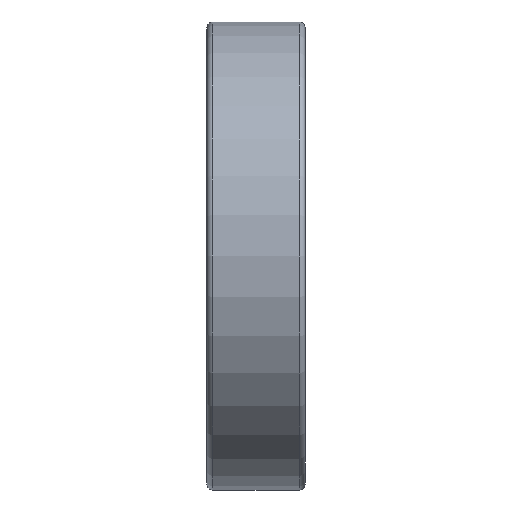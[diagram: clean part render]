
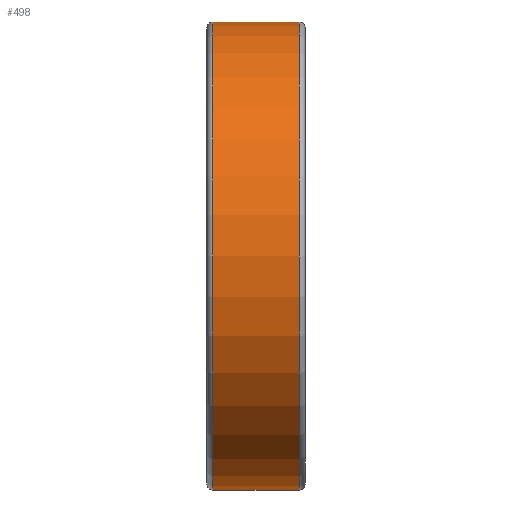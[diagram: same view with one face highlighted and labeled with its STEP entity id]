
A CAD part, left-side view. The second image highlights one B-rep face of the part: STEP entity #498.
In plain terms, the highlighted cylindrical face has radius 31 mm (diameter 62 mm), a full revolution.
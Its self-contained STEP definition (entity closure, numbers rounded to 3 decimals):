
#161=CYLINDRICAL_SURFACE('',#541,31.);
#176=FACE_BOUND('',#243,.T.);
#206=FACE_OUTER_BOUND('',#242,.T.);
#242=EDGE_LOOP('',(#397));
#243=EDGE_LOOP('',(#398));
#301=CIRCLE('',#540,31.);
#302=CIRCLE('',#542,31.);
#332=VERTEX_POINT('',#842);
#333=VERTEX_POINT('',#845);
#363=EDGE_CURVE('',#332,#332,#301,.T.);
#364=EDGE_CURVE('',#333,#333,#302,.T.);
#397=ORIENTED_EDGE('',*,*,#364,.F.);
#398=ORIENTED_EDGE('',*,*,#363,.F.);
#498=ADVANCED_FACE('',(#206,#176),#161,.T.);
#540=AXIS2_PLACEMENT_3D('',#843,#649,#650);
#541=AXIS2_PLACEMENT_3D('',#844,#651,#652);
#542=AXIS2_PLACEMENT_3D('',#846,#653,#654);
#649=DIRECTION('center_axis',(0.,-1.,0.));
#650=DIRECTION('ref_axis',(0.,0.,-1.));
#651=DIRECTION('center_axis',(0.,1.,0.));
#652=DIRECTION('ref_axis',(0.,0.,1.));
#653=DIRECTION('center_axis',(0.,1.,0.));
#654=DIRECTION('ref_axis',(0.,0.,-1.));
#842=CARTESIAN_POINT('',(0.,-12.22,31.));
#843=CARTESIAN_POINT('Origin',(0.,-12.22,0.));
#844=CARTESIAN_POINT('Origin',(0.,-6.5,0.));
#845=CARTESIAN_POINT('',(0.,-0.78,31.));
#846=CARTESIAN_POINT('Origin',(0.,-0.78,0.));
